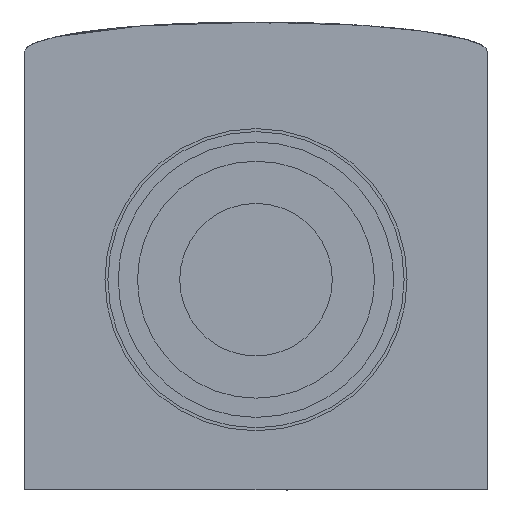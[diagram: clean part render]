
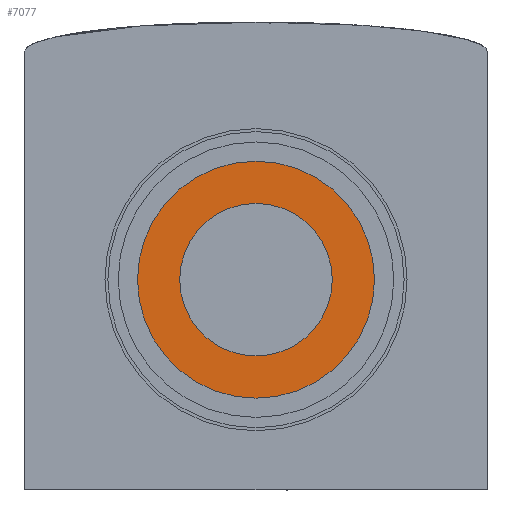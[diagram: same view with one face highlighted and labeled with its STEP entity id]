
A CAD part, front view. The second image highlights one B-rep face of the part: STEP entity #7077.
In plain terms, the highlighted planar face has unit normal (0, -1, 0).
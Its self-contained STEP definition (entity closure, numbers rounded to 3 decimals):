
#157 = ORIENTED_EDGE ( 'NONE', *, *, #11090, .T. ) ;
#405 = AXIS2_PLACEMENT_3D ( 'NONE', #2414, #16300, #11959 ) ;
#1053 = CARTESIAN_POINT ( 'NONE',  ( 0., -23.5, 2. ) ) ;
#1185 = VERTEX_POINT ( 'NONE', #8150 ) ;
#1388 = EDGE_LOOP ( 'NONE', ( #4047, #157 ) ) ;
#2087 = AXIS2_PLACEMENT_3D ( 'NONE', #1053, #15580, #3461 ) ;
#2414 = CARTESIAN_POINT ( 'NONE',  ( 0., -23.5, 2. ) ) ;
#2574 = EDGE_CURVE ( 'NONE', #9237, #6243, #11615, .T. ) ;
#3245 = CIRCLE ( 'NONE', #405, 5.15 ) ;
#3461 = DIRECTION ( 'NONE',  ( 0., 0., -1. ) ) ;
#4047 = ORIENTED_EDGE ( 'NONE', *, *, #2574, .T. ) ;
#5382 = DIRECTION ( 'NONE',  ( 0., -1., 0. ) ) ;
#6243 = VERTEX_POINT ( 'NONE', #9857 ) ;
#6358 = CARTESIAN_POINT ( 'NONE',  ( 0., -23.5, 2. ) ) ;
#6506 = AXIS2_PLACEMENT_3D ( 'NONE', #13715, #5382, #13536 ) ;
#6871 = VERTEX_POINT ( 'NONE', #16201 ) ;
#7077 = ADVANCED_FACE ( 'NONE', ( #11763, #13177 ), #17157, .T. ) ;
#7153 = CARTESIAN_POINT ( 'NONE',  ( 0., -23.5, 2. ) ) ;
#7802 = AXIS2_PLACEMENT_3D ( 'NONE', #7153, #15481, #10074 ) ;
#7942 = DIRECTION ( 'NONE',  ( 0., -1., 0. ) ) ;
#8150 = CARTESIAN_POINT ( 'NONE',  ( 0., -23.5, 7.15 ) ) ;
#9053 = EDGE_CURVE ( 'NONE', #1185, #6871, #3245, .T. ) ;
#9237 = VERTEX_POINT ( 'NONE', #16087 ) ;
#9719 = CIRCLE ( 'NONE', #10848, 5.15 ) ;
#9857 = CARTESIAN_POINT ( 'NONE',  ( 0., -23.5, 10. ) ) ;
#10074 = DIRECTION ( 'NONE',  ( 0., 0., -1. ) ) ;
#10848 = AXIS2_PLACEMENT_3D ( 'NONE', #6358, #7942, #13174 ) ;
#11090 = EDGE_CURVE ( 'NONE', #6243, #9237, #15167, .T. ) ;
#11615 = CIRCLE ( 'NONE', #6506, 8. ) ;
#11763 = FACE_BOUND ( 'NONE', #12279, .T. ) ;
#11959 = DIRECTION ( 'NONE',  ( 0., 0., -1. ) ) ;
#12279 = EDGE_LOOP ( 'NONE', ( #12789, #12566 ) ) ;
#12566 = ORIENTED_EDGE ( 'NONE', *, *, #9053, .F. ) ;
#12789 = ORIENTED_EDGE ( 'NONE', *, *, #16651, .F. ) ;
#13174 = DIRECTION ( 'NONE',  ( 0., 0., -1. ) ) ;
#13177 = FACE_OUTER_BOUND ( 'NONE', #1388, .T. ) ;
#13536 = DIRECTION ( 'NONE',  ( 0., 0., -1. ) ) ;
#13715 = CARTESIAN_POINT ( 'NONE',  ( 0., -23.5, 2. ) ) ;
#15167 = CIRCLE ( 'NONE', #7802, 8. ) ;
#15481 = DIRECTION ( 'NONE',  ( 0., -1., 0. ) ) ;
#15580 = DIRECTION ( 'NONE',  ( 0., -1., 0. ) ) ;
#16087 = CARTESIAN_POINT ( 'NONE',  ( 0., -23.5, -6. ) ) ;
#16201 = CARTESIAN_POINT ( 'NONE',  ( 0., -23.5, -3.15 ) ) ;
#16300 = DIRECTION ( 'NONE',  ( 0., -1., 0. ) ) ;
#16651 = EDGE_CURVE ( 'NONE', #6871, #1185, #9719, .T. ) ;
#17157 = PLANE ( 'NONE',  #2087 ) ;
